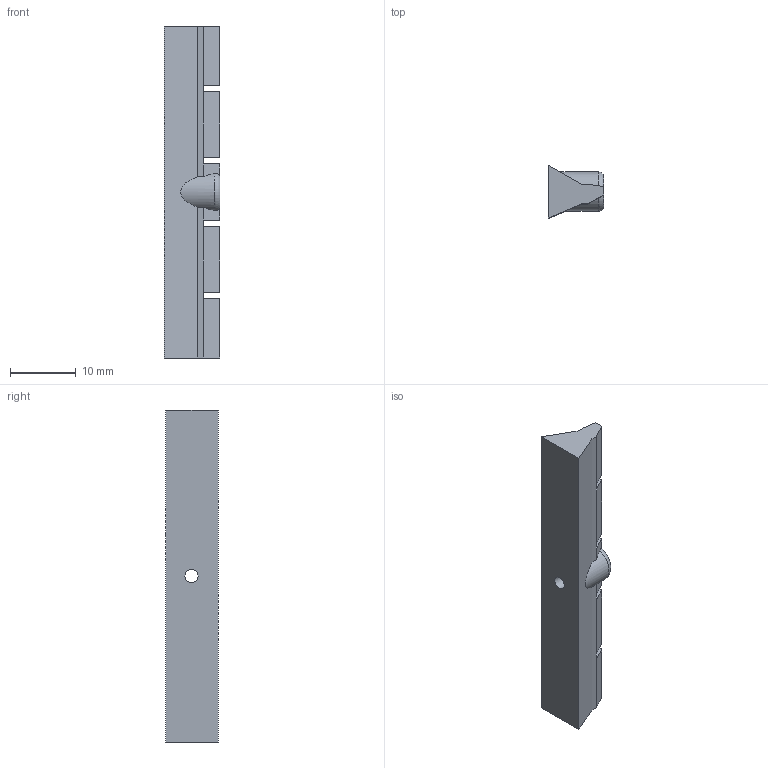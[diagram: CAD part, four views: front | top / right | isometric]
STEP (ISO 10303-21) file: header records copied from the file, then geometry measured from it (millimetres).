
FILE_DESCRIPTION(('STEP AP203'), '1');
FILE_NAME('ïîäñòàâêà 5-7 ìì çàíèæåííûé', '', ('UNSPECIFIED'), ('UNSPECIFIED'), 'ASCON STEP Converter 1.3', 'ASCON Math Kernel', '');
FILE_SCHEMA(('CONFIG_CONTROL_DESIGN'));
Length unit declared in the file: millimetre
Bounding box: 8.5 x 8.02 x 50.6 mm (x, y, z)
Volume: 1822.1 mm3; surface area: 1581.5 mm2
Topology: 1 solids, 1 shells, 45 faces, 111 edges, 67 vertices
Faces by surface type: plane 39, cylinder 3, torus 2, cone 1
Full cylindrical faces by diameter (mm): 2 x1
Entity records: 1770 total; most frequent: CARTESIAN_POINT 334, ORIENTED_EDGE 218, DIRECTION 200, EDGE_CURVE 109, LINE 90, VECTOR 90, VERTEX_POINT 67, AXIS2_PLACEMENT_3D 55
